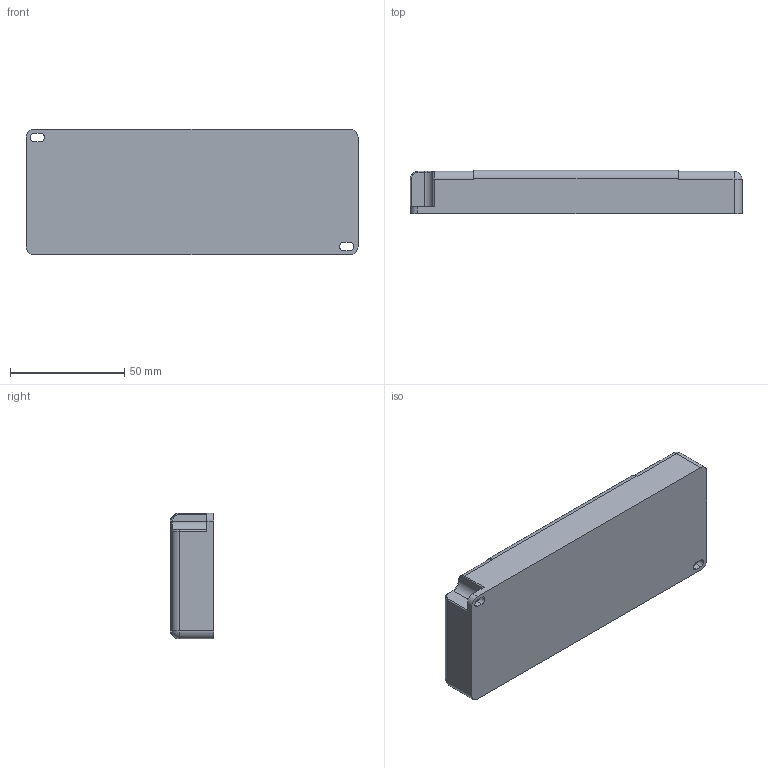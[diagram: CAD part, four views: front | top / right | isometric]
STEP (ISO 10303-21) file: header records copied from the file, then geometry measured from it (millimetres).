
FILE_DESCRIPTION (( 'STEP AP214' ), '1' );
FILE_NAME ('AC DC EFU ( 3D STEP ).STEP', '2013-01-18T08:45:13', ( '' ), ( '' ), 'SwSTEP 2.0', 'SolidWorks 2012', '' );
FILE_SCHEMA (( 'AUTOMOTIVE_DESIGN' ));
Length unit declared in the file: millimetre
Products named in the file (1): AC DC EFU  ( 3D STEP )
Bounding box: 145.5 x 19 x 55 mm (x, y, z)
Volume: 147130.9 mm3; surface area: 22874 mm2
Topology: 1 solids, 1 shells, 60 faces, 158 edges, 98 vertices
Faces by surface type: cylinder 28, plane 24, torus 6, sphere 2
Entity records: 1882 total; most frequent: DIRECTION 342, CARTESIAN_POINT 315, ORIENTED_EDGE 312, EDGE_CURVE 156, AXIS2_PLACEMENT_3D 125, VERTEX_POINT 98, VECTOR 92, LINE 92
